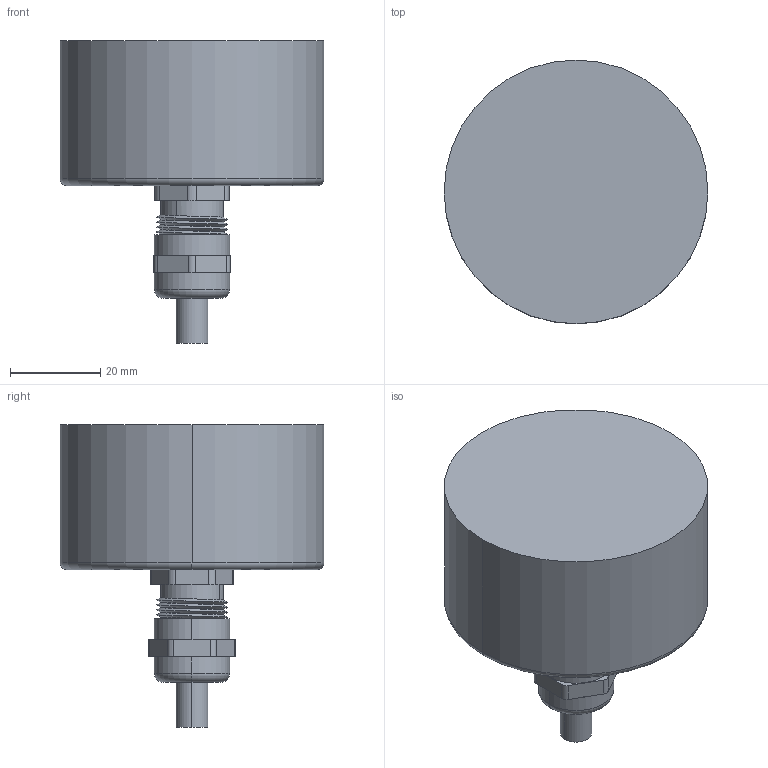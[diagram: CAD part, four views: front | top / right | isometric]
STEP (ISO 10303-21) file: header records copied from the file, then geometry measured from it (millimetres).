
FILE_DESCRIPTION (( 'STEP AP214' ), '1' );
FILE_NAME ('drawing-mc-5-ca-322-sws-12bnnn-n-caw-n.STEP', '2018-05-18T07:59:10', ( '' ), ( '' ), 'SwSTEP 2.0', 'SolidWorks 2017', '' );
FILE_SCHEMA (( 'AUTOMOTIVE_DESIGN' ));
Length unit declared in the file: millimetre
Products named in the file (1): drawing-mc-5-ca-322-sws-12bnnn-n-caw-n
Bounding box: 58.6 x 58.6 x 67.25 mm (x, y, z)
Volume: 13006.1 mm3; surface area: 28536.3 mm2
Topology: 7 solids, 7 shells, 317 faces, 854 edges, 563 vertices
Faces by surface type: plane 148, cylinder 110, torus 39, bspline 14, cone 6
Entity records: 16003 total; most frequent: CARTESIAN_POINT 4546, ORIENTED_EDGE 1708, DIRECTION 1626, EDGE_CURVE 854, AXIS2_PLACEMENT_3D 655, VERTEX_POINT 563, CIRCLE 351, EDGE_LOOP 335
